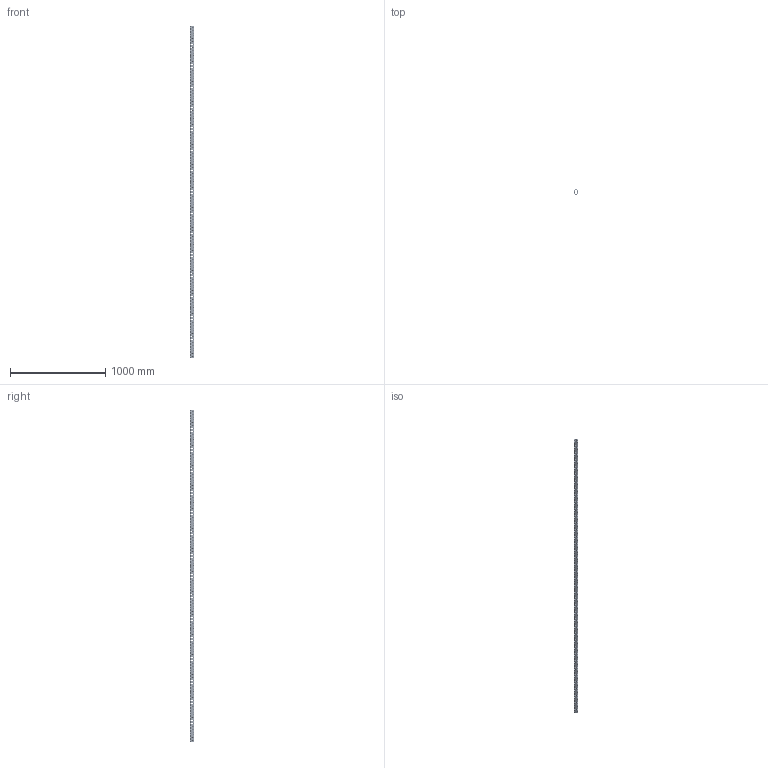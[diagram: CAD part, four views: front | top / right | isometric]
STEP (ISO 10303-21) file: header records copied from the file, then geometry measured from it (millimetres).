
FILE_DESCRIPTION(('CATIA V5 STEP Exchange'),'2;1');
FILE_NAME('U:\Room\唐宝山\EGT002\46-01-010345-01-EGT002-3478.stp','2021-08-24T09:40:36+00:00',('none'),('none'),'CATIA Version 5 Release 21 GA (IN-10)','CATIA V5 STEP AP203','none');
FILE_SCHEMA(('CONFIG_CONTROL_DESIGN'));
Products named in the file (1): 46-01-010345-01-EGT002-3478
Bounding box: 50 x 50 x 3478 mm (x, y, z)
Volume: 2478246.4 mm3; surface area: 1193460.9 mm2
Topology: 1 solids, 1 shells, 4724 faces, 13006 edges, 8052 vertices
Faces by surface type: cone 2784, cylinder 1914, plane 26
Entity records: 191779 total; most frequent: CARTESIAN_POINT 77144, ORIENTED_EDGE 26012, DIRECTION 18543, EDGE_CURVE 13006, AXIS2_PLACEMENT_3D 8818, VERTEX_POINT 8052, EDGE_LOOP 6350, VECTOR 5002
